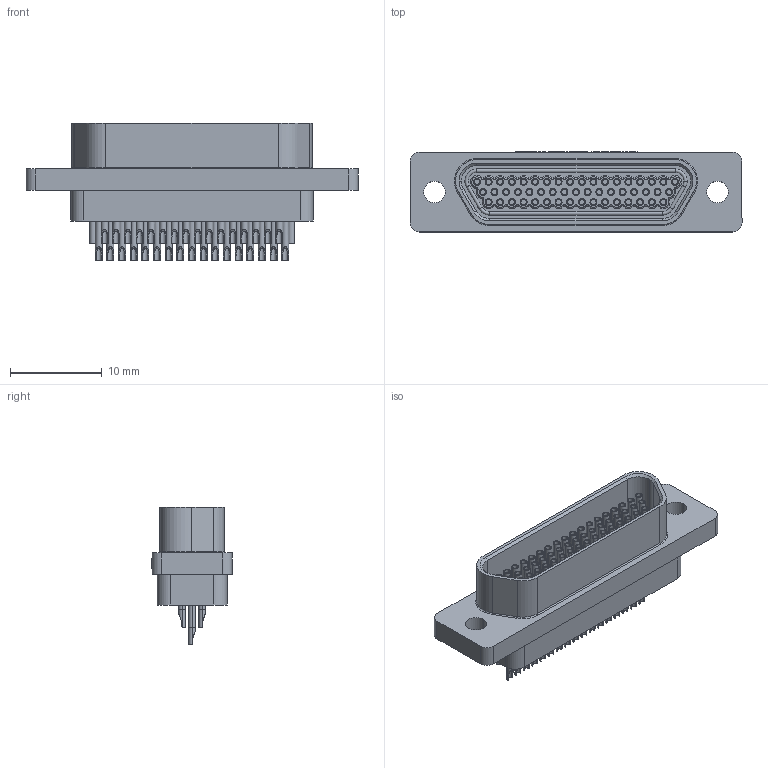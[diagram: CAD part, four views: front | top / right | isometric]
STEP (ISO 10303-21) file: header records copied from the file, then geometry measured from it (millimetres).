
FILE_DESCRIPTION (( 'STEP AP214' ), '1' );
FILE_NAME ('A99000-513 REV C.STEP', '2014-11-13T22:01:01', ( '' ), ( '' ), 'SwSTEP 2.0', 'SolidWorks 2014', '' );
FILE_SCHEMA (( 'AUTOMOTIVE_DESIGN' ));
Length unit declared in the file: inch
Products named in the file (1): A99000-513 REV B
Bounding box: 36.2 x 8.72 x 14.96 mm (x, y, z)
Volume: 1700.3 mm3; surface area: 2830.9 mm2
Topology: 1 solids, 1 shells, 1123 faces, 2583 edges, 1532 vertices
Faces by surface type: cylinder 580, plane 301, cone 107, torus 87, bspline 48
Entity records: 35781 total; most frequent: CARTESIAN_POINT 10519, DIRECTION 5559, ORIENTED_EDGE 4962, EDGE_CURVE 2481, AXIS2_PLACEMENT_3D 2200, VERTEX_POINT 1532, EDGE_LOOP 1299, LINE 1159
